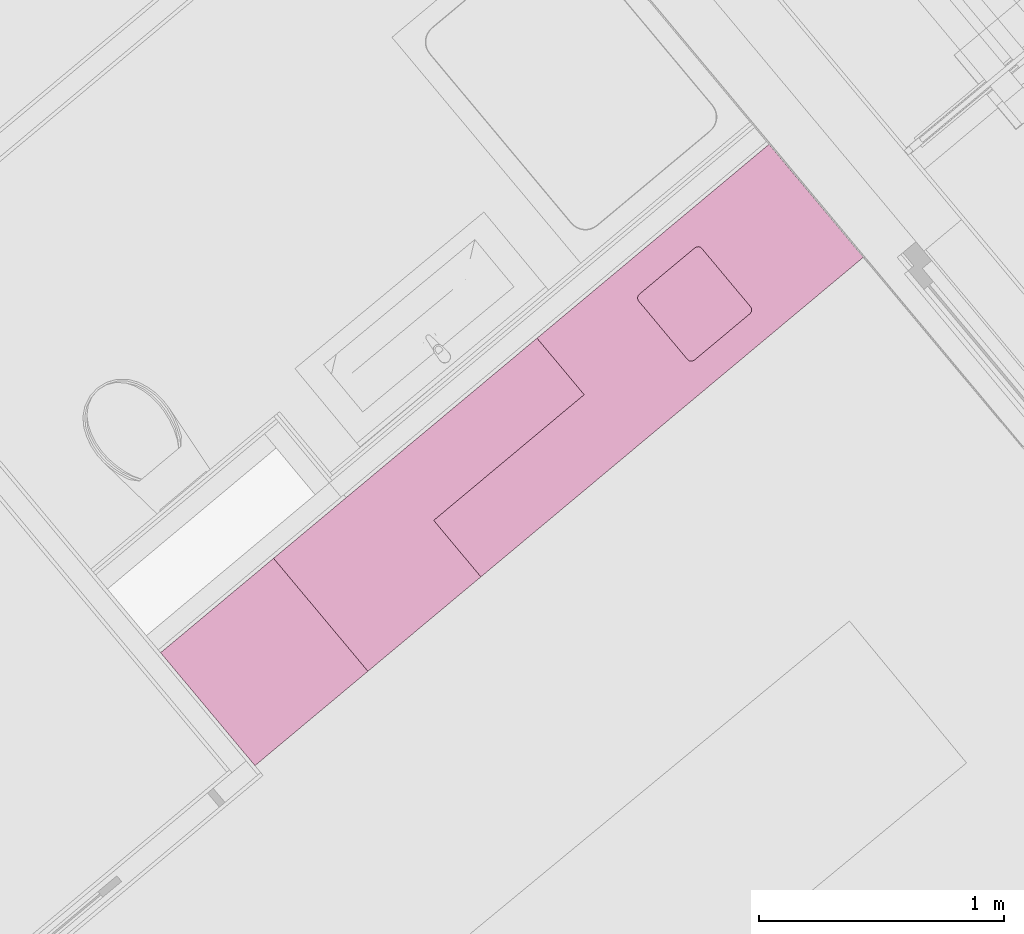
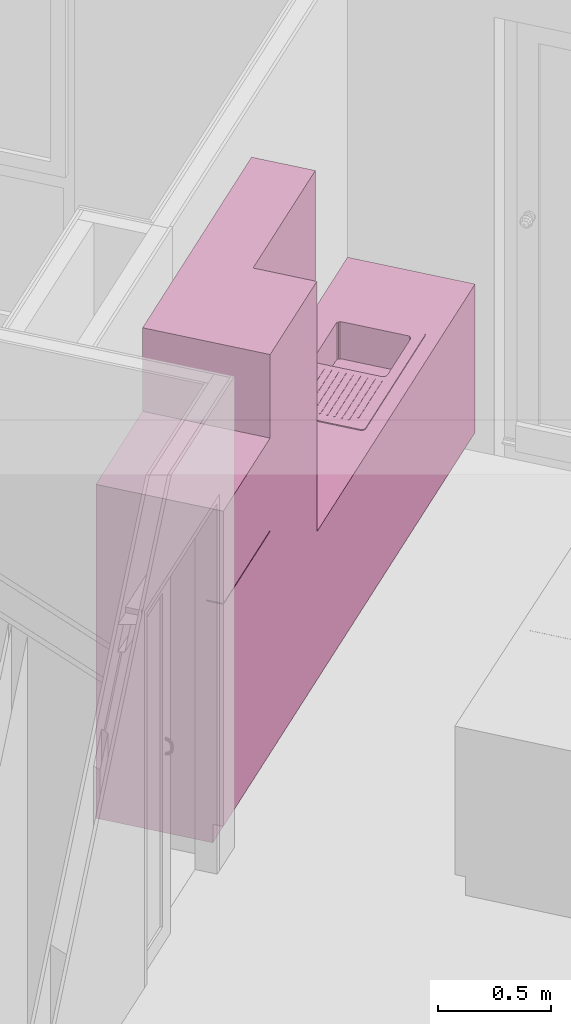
# One storey, part 61 of 61: 1 furniture element.
"""IFC4 building model written with IfcOpenShell, lengths in metres."""

from ifc_helpers import new_model, entity, si_unit, converted_unit, derived_unit, direction, frame, origin_with_axes, place, context, subcontext, project, spatial, polygons, source, transform, mapped, type_object, element, save


model = new_model("IFC4")

# Units and contexts
model_context = context("Model", 3, precision=1e-05, world=origin_with_axes(), true_north=direction((0.0, 1.0)))
body_context = subcontext(model_context, "Body", "Model", "MODEL_VIEW")
ifc_project = project(units=[si_unit("LENGTHUNIT", "METRE"), si_unit("AREAUNIT", "SQUARE_METRE"), si_unit("VOLUMEUNIT", "CUBIC_METRE"), converted_unit("PLANEANGLEUNIT", "DEGREE", entity("IfcPlaneAngleMeasure", 0.0174532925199), si_unit("PLANEANGLEUNIT", "RADIAN"), dimensions=[0, 0, 0, 0, 0, 0, 0]), converted_unit("TIMEUNIT", "Year", entity("IfcTimeMeasure", 31556926.0), si_unit("TIMEUNIT", "SECOND"), dimensions=[0, 0, 1, 0, 0, 0, 0]), si_unit("MASSUNIT", "GRAM", prefix="KILO"), si_unit("THERMODYNAMICTEMPERATUREUNIT", "DEGREE_CELSIUS"), si_unit("LUMINOUSINTENSITYUNIT", "LUMEN"), si_unit("ENERGYUNIT", "JOULE", prefix="MEGA"), derived_unit("THERMALCONDUCTANCEUNIT", [(si_unit("POWERUNIT", "WATT"), 1), (si_unit("LENGTHUNIT", "METRE"), -1), (si_unit("THERMODYNAMICTEMPERATUREUNIT", "KELVIN"), -1)]), derived_unit("SPECIFICHEATCAPACITYUNIT", [(si_unit("ENERGYUNIT", "JOULE"), 1), (si_unit("MASSUNIT", "GRAM", prefix="KILO"), -1), (si_unit("THERMODYNAMICTEMPERATUREUNIT", "KELVIN"), -1)]), derived_unit("MASSDENSITYUNIT", [(si_unit("MASSUNIT", "GRAM", prefix="KILO"), 1), (si_unit("VOLUMEUNIT", "CUBIC_METRE"), -1)])], contexts=[model_context])

# Site, building, storey, space
site_placement = place(None, frame((-0.00153261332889, -0.00661245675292, 0.0), z_axis=(0.0, 0.0, 1.0), x_axis=(1.0, 0.0, 0.0)))
site = spatial("IfcSite", under=ifc_project, at=site_placement, Name="Gelände", CompositionType="ELEMENT")
building_placement = place(site_placement, origin_with_axes())
building = spatial("IfcBuilding", under=site, at=building_placement, Name="Gebäude", CompositionType="ELEMENT")
storey_placement = place(building_placement, frame((0.0, 0.0, 5.7), z_axis=(0.0, 0.0, 1.0), x_axis=(1.0, 0.0, 0.0)))
storey = spatial("IfcBuildingStorey", under=building, at=storey_placement, Name="DG1", CompositionType="ELEMENT", Elevation=5.7)
space_placement = place(storey_placement, frame((12.8063322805, 20.3315828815, 0.22), z_axis=(0.0, 0.0, 1.0), x_axis=(-0.641209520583, 0.767365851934, 0.0)))
space = spatial("IfcSpace", under=storey, at=space_placement, CompositionType="ELEMENT", PredefinedType="NOTDEFINED")

# Furniture
furniture_type = type_object("IfcFurnitureType", Name="Konzeptküche 26", AssemblyPlace="NOTDEFINED", PredefinedType="NOTDEFINED")
shared_shape = source(origin_with_axes(), body_context, "Body", "Tessellation", [
    polygons([(-0.968323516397, 0.0, 0.0), (-0.968323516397, 0.0, 0.1), (-3.0, 0.0, 0.1), (-3.0, 0.0, 0.0), (-0.968323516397, 0.55, 0.0), (-0.968323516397, 0.55, 0.1), (-3.0, 0.55, 0.1), (-3.0, 0.55, 0.0)], [[[1, 2, 3, 4]], [[5, 6, 2, 1]], [[2, 6, 7, 3]], [[4, 3, 7, 8]], [[1, 4, 8, 5]], [[8, 7, 6, 5]]], closed=True),
    polygons([(-0.968323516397, 0.6, 0.85), (-0.968323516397, 0.0, 0.85), (-3.0, 0.0, 0.85), (-3.0, 0.6, 0.85), (-1.79253770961, 0.055, 0.85), (-1.79253770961, 0.505, 0.85), (-2.54253770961, 0.505, 0.85), (-2.54253770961, 0.055, 0.85), (-0.968323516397, 0.6, 0.9), (-0.968323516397, 0.0, 0.9), (-3.0, 0.0, 0.9), (-3.0, 0.6, 0.9), (-1.79253770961, 0.505, 0.9), (-1.79253770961, 0.055, 0.9), (-2.54253770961, 0.505, 0.9), (-2.54253770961, 0.055, 0.9)], [[[1, 2, 3, 4], [5, 6, 7, 8]], [[2, 1, 9, 10]], [[3, 2, 10, 11]], [[4, 3, 11, 12]], [[1, 4, 12, 9]], [[13, 6, 5, 14]], [[15, 7, 6, 13]], [[16, 8, 7, 15]], [[14, 5, 8, 16]], [[11, 10, 9, 12], [14, 16, 15, 13]]], closed=True),
    polygons([(-0.968323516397, 0.6, 0.1), (-0.968323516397, 0.0, 0.1), (-3.0, 0.0, 0.1), (-3.0, 0.6, 0.1), (-1.79253770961, 0.055, 0.1), (-1.79253770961, 0.505, 0.1), (-2.54253770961, 0.505, 0.1), (-2.54253770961, 0.055, 0.1), (-0.968323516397, 0.6, 0.85), (-0.968323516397, 0.0, 0.85), (-3.0, 0.0, 0.85), (-3.0, 0.6, 0.85), (-1.79253770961, 0.505, 0.85), (-1.79253770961, 0.055, 0.85), (-2.54253770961, 0.505, 0.85), (-2.54253770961, 0.055, 0.85)], [[[1, 2, 3, 4], [5, 6, 7, 8]], [[2, 1, 9, 10]], [[3, 2, 10, 11]], [[4, 3, 11, 12]], [[1, 4, 12, 9]], [[13, 6, 5, 14]], [[15, 7, 6, 13]], [[16, 8, 7, 15]], [[14, 5, 8, 16]], [[11, 10, 9, 12], [14, 16, 15, 13]]], closed=True),
    polygons([(-0.968323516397, 0.0, 1.5), (-0.968323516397, 0.0, 2.25), (-1.76753770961, 0.0, 2.25), (-1.76753770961, 0.0, 1.5), (-0.968323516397, 0.3, 1.5), (-0.968323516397, 0.3, 2.25), (-1.76753770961, 0.3, 2.25), (-1.76753770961, 0.3, 1.5)], [[[1, 2, 3, 4]], [[5, 6, 2, 1]], [[2, 6, 7, 3]], [[4, 3, 7, 8]], [[1, 4, 8, 5]], [[8, 7, 6, 5]]], closed=True),
    polygons([(-0.368323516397, 0.52, 0.0), (-0.368323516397, 0.52, 0.1), (-0.368323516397, 0.55, 0.1), (-0.368323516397, 0.55, 0.0), (0.231676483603, 0.52, 0.0), (0.231676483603, 0.52, 0.1), (0.231676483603, 0.55, 0.1), (0.231676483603, 0.55, 0.0)], [[[1, 2, 3, 4]], [[5, 6, 2, 1]], [[2, 6, 7, 3]], [[4, 3, 7, 8]], [[1, 4, 8, 5]], [[8, 7, 6, 5]]], closed=True),
    polygons([(-0.368323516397, 0.52, 0.0), (-0.368323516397, 0.52, 1.8), (0.231676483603, 0.52, 1.8), (0.231676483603, 0.52, 0.0), (-0.368323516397, 0.0, 0.0), (-0.368323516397, 0.0, 1.8), (0.231676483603, 0.0, 1.8), (0.231676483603, 0.0, 0.0)], [[[1, 2, 3, 4]], [[5, 6, 2, 1]], [[2, 6, 7, 3]], [[4, 3, 7, 8]], [[1, 4, 8, 5]], [[8, 7, 6, 5]]], closed=True),
    polygons([(-0.368323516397, 0.5199, 0.1), (-0.368323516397, 0.5199, 1.2975), (-0.368323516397, 0.6, 1.2975), (-0.368323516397, 0.6, 0.1), (0.231676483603, 0.5199, 0.1), (0.231676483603, 0.5199, 1.2975), (0.231676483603, 0.6, 1.2975), (0.231676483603, 0.6, 0.1)], [[[1, 2, 3, 4]], [[5, 6, 2, 1]], [[2, 6, 7, 3]], [[4, 3, 7, 8]], [[1, 4, 8, 5]], [[8, 7, 6, 5]]], closed=True),
    polygons([(-0.368323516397, 0.5199, 1.3025), (-0.368323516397, 0.5199, 1.8), (-0.368323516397, 0.6, 1.8), (-0.368323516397, 0.6, 1.3025), (0.231676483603, 0.5199, 1.3025), (0.231676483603, 0.5199, 1.8), (0.231676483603, 0.6, 1.8), (0.231676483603, 0.6, 1.3025)], [[[1, 2, 3, 4]], [[5, 6, 2, 1]], [[2, 6, 7, 3]], [[4, 3, 7, 8]], [[1, 4, 8, 5]], [[8, 7, 6, 5]]], closed=True),
    polygons([(-2.49753770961, 0.48, 0.705), (-2.49753770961, 0.48, 0.9), (-2.20253770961, 0.48, 0.9), (-2.20253770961, 0.48, 0.705), (-2.50519137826, 0.47847759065, 0.705), (-2.50519137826, 0.47847759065, 0.9), (-2.19488404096, 0.47847759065, 0.9), (-2.19488404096, 0.47847759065, 0.705), (-2.18839557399, 0.474142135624, 0.705), (-2.18406011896, 0.467653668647, 0.705), (-2.18253770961, 0.46, 0.705), (-2.18253770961, 0.15, 0.705), (-2.18406011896, 0.142346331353, 0.705), (-2.18839557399, 0.135857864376, 0.705), (-2.19488404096, 0.13152240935, 0.705), (-2.20253770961, 0.13, 0.705), (-2.49753770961, 0.13, 0.705), (-2.50519137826, 0.13152240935, 0.705), (-2.51167984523, 0.135857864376, 0.705), (-2.51601530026, 0.142346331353, 0.705), (-2.51753770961, 0.15, 0.705), (-2.51753770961, 0.46, 0.705), (-2.51601530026, 0.467653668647, 0.705), (-2.51167984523, 0.474142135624, 0.705), (-2.51167984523, 0.474142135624, 0.9), (-2.18839557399, 0.474142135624, 0.9), (-2.18406011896, 0.467653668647, 0.9), (-2.18253770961, 0.46, 0.9), (-2.18253770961, 0.15, 0.9), (-2.18406011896, 0.142346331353, 0.9), (-2.18839557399, 0.135857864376, 0.9), (-2.19488404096, 0.13152240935, 0.9), (-2.20253770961, 0.13, 0.9), (-2.49753770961, 0.13, 0.9), (-2.50519137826, 0.13152240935, 0.9), (-2.51167984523, 0.135857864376, 0.9), (-2.51601530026, 0.142346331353, 0.9), (-2.51753770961, 0.15, 0.9), (-2.51753770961, 0.46, 0.9), (-2.51601530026, 0.467653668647, 0.9)], [[[1, 2, 3, 4]], [[5, 6, 2, 1]], [[4, 3, 7, 8]], [[1, 4, 8, 9, 10, 11, 12, 13, 14, 15, 16, 17, 18, 19, 20, 21, 22, 23, 24, 5]], [[24, 25, 6, 5]], [[8, 7, 26, 9]], [[9, 26, 27, 10]], [[10, 27, 28, 11]], [[11, 28, 29, 12]], [[12, 29, 30, 13]], [[13, 30, 31, 14]], [[14, 31, 32, 15]], [[15, 32, 33, 16]], [[16, 33, 34, 17]], [[17, 34, 35, 18]], [[18, 35, 36, 19]], [[19, 36, 37, 20]], [[20, 37, 38, 21]], [[21, 38, 39, 22]], [[22, 39, 40, 23]], [[23, 40, 25, 24]]], closed=False),
    polygons([(-2.54753770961, 0.53, 0.9), (-2.54753770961, 0.53, 0.905), (-1.78753770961, 0.53, 0.905), (-1.78753770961, 0.53, 0.9), (-2.55519137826, 0.52847759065, 0.9), (-2.55519137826, 0.52847759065, 0.905), (-2.56167984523, 0.524142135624, 0.905), (-2.56601530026, 0.517653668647, 0.905), (-2.56753770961, 0.51, 0.905), (-2.56753770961, 0.05, 0.905), (-2.56601530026, 0.0423463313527, 0.905), (-2.56167984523, 0.0358578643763, 0.905), (-2.55519137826, 0.0315224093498, 0.905), (-2.54753770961, 0.03, 0.905), (-1.78753770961, 0.03, 0.905), (-1.77988404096, 0.0315224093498, 0.905), (-1.77339557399, 0.0358578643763, 0.905), (-1.76906011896, 0.0423463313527, 0.905), (-1.76753770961, 0.05, 0.905), (-1.76753770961, 0.51, 0.905), (-1.76906011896, 0.517653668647, 0.905), (-1.77339557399, 0.524142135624, 0.905), (-1.77988404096, 0.52847759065, 0.905), (-2.49753770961, 0.48, 0.905), (-2.20253770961, 0.48, 0.905), (-2.19488404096, 0.47847759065, 0.905), (-2.18839557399, 0.474142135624, 0.905), (-2.18406011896, 0.467653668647, 0.905), (-2.18253770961, 0.46, 0.905), (-2.18253770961, 0.15, 0.905), (-2.18406011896, 0.142346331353, 0.905), (-2.18839557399, 0.135857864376, 0.905), (-2.19488404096, 0.13152240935, 0.905), (-2.20253770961, 0.13, 0.905), (-2.49753770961, 0.13, 0.905), (-2.50519137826, 0.13152240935, 0.905), (-2.51167984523, 0.135857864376, 0.905), (-2.51601530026, 0.142346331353, 0.905), (-2.51753770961, 0.15, 0.905), (-2.51753770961, 0.46, 0.905), (-2.51601530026, 0.467653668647, 0.905), (-2.51167984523, 0.474142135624, 0.905), (-2.50519137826, 0.47847759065, 0.905), (-1.77988404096, 0.52847759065, 0.9), (-1.77339557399, 0.524142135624, 0.9), (-1.76906011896, 0.517653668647, 0.9), (-1.76753770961, 0.51, 0.9), (-1.76753770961, 0.05, 0.9), (-1.76906011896, 0.0423463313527, 0.9), (-1.77339557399, 0.0358578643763, 0.9), (-1.77988404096, 0.0315224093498, 0.9), (-1.78753770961, 0.03, 0.9), (-2.54753770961, 0.03, 0.9), (-2.55519137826, 0.0315224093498, 0.9), (-2.56167984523, 0.0358578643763, 0.9), (-2.56601530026, 0.0423463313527, 0.9), (-2.56753770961, 0.05, 0.9), (-2.56753770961, 0.51, 0.9), (-2.56601530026, 0.517653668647, 0.9), (-2.56167984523, 0.524142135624, 0.9), (-2.49753770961, 0.48, 0.9), (-2.50519137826, 0.47847759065, 0.9), (-2.51167984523, 0.474142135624, 0.9), (-2.51601530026, 0.467653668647, 0.9), (-2.51753770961, 0.46, 0.9), (-2.51753770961, 0.15, 0.9), (-2.51601530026, 0.142346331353, 0.9), (-2.51167984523, 0.135857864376, 0.9), (-2.50519137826, 0.13152240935, 0.9), (-2.49753770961, 0.13, 0.9), (-2.20253770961, 0.13, 0.9), (-2.19488404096, 0.13152240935, 0.9), (-2.18839557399, 0.135857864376, 0.9), (-2.18406011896, 0.142346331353, 0.9), (-2.18253770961, 0.15, 0.9), (-2.18253770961, 0.46, 0.9), (-2.18406011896, 0.467653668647, 0.9), (-2.18839557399, 0.474142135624, 0.9), (-2.19488404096, 0.47847759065, 0.9), (-2.20253770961, 0.48, 0.9)], [[[1, 2, 3, 4]], [[5, 6, 2, 1]], [[2, 6, 7, 8, 9, 10, 11, 12, 13, 14, 15, 16, 17, 18, 19, 20, 21, 22, 23, 3], [24, 25, 26, 27, 28, 29, 30, 31, 32, 33, 34, 35, 36, 37, 38, 39, 40, 41, 42, 43]], [[4, 3, 23, 44]], [[1, 4, 44, 45, 46, 47, 48, 49, 50, 51, 52, 53, 54, 55, 56, 57, 58, 59, 60, 5], [61, 62, 63, 64, 65, 66, 67, 68, 69, 70, 71, 72, 73, 74, 75, 76, 77, 78, 79, 80]], [[60, 7, 6, 5]], [[59, 8, 7, 60]], [[58, 9, 8, 59]], [[57, 10, 9, 58]], [[56, 11, 10, 57]], [[55, 12, 11, 56]], [[54, 13, 12, 55]], [[53, 14, 13, 54]], [[52, 15, 14, 53]], [[51, 16, 15, 52]], [[50, 17, 16, 51]], [[49, 18, 17, 50]], [[48, 19, 18, 49]], [[47, 20, 19, 48]], [[46, 21, 20, 47]], [[45, 22, 21, 46]], [[44, 23, 22, 45]], [[80, 25, 24, 61]], [[79, 26, 25, 80]], [[78, 27, 26, 79]], [[77, 28, 27, 78]], [[76, 29, 28, 77]], [[75, 30, 29, 76]], [[74, 31, 30, 75]], [[73, 32, 31, 74]], [[72, 33, 32, 73]], [[71, 34, 33, 72]], [[70, 35, 34, 71]], [[69, 36, 35, 70]], [[68, 37, 36, 69]], [[67, 38, 37, 68]], [[66, 39, 38, 67]], [[65, 40, 39, 66]], [[64, 41, 40, 65]], [[63, 42, 41, 64]], [[62, 43, 42, 63]], [[61, 24, 43, 62]]], closed=True),
    polygons([(-2.15253770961, 0.475, 0.905), (-2.15253770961, 0.475, 0.907), (-1.84753770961, 0.475, 0.907), (-1.84753770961, 0.475, 0.905), (-2.15253770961, 0.47, 0.905), (-2.15253770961, 0.47, 0.907), (-1.84753770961, 0.47, 0.907), (-1.84753770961, 0.47, 0.905)], [[[1, 2, 3, 4]], [[5, 6, 2, 1]], [[2, 6, 7, 3]], [[4, 3, 7, 8]], [[1, 4, 8, 5]], [[8, 7, 6, 5]]], closed=True),
    polygons([(-2.15253770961, 0.441, 0.905), (-2.15253770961, 0.441, 0.907), (-1.81753770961, 0.441, 0.907), (-1.81753770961, 0.441, 0.905), (-2.15253770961, 0.436, 0.905), (-2.15253770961, 0.436, 0.907), (-1.81753770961, 0.436, 0.907), (-1.81753770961, 0.436, 0.905)], [[[1, 2, 3, 4]], [[5, 6, 2, 1]], [[2, 6, 7, 3]], [[4, 3, 7, 8]], [[1, 4, 8, 5]], [[8, 7, 6, 5]]], closed=True),
    polygons([(-2.15253770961, 0.407, 0.905), (-2.15253770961, 0.407, 0.907), (-1.81753770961, 0.407, 0.907), (-1.81753770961, 0.407, 0.905), (-2.15253770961, 0.402, 0.905), (-2.15253770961, 0.402, 0.907), (-1.81753770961, 0.402, 0.907), (-1.81753770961, 0.402, 0.905)], [[[1, 2, 3, 4]], [[5, 6, 2, 1]], [[2, 6, 7, 3]], [[4, 3, 7, 8]], [[1, 4, 8, 5]], [[8, 7, 6, 5]]], closed=True),
    polygons([(-2.15253770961, 0.373, 0.905), (-2.15253770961, 0.373, 0.907), (-1.81753770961, 0.373, 0.907), (-1.81753770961, 0.373, 0.905), (-2.15253770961, 0.368, 0.905), (-2.15253770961, 0.368, 0.907), (-1.81753770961, 0.368, 0.907), (-1.81753770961, 0.368, 0.905)], [[[1, 2, 3, 4]], [[5, 6, 2, 1]], [[2, 6, 7, 3]], [[4, 3, 7, 8]], [[1, 4, 8, 5]], [[8, 7, 6, 5]]], closed=True),
    polygons([(-2.15253770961, 0.339, 0.905), (-2.15253770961, 0.339, 0.907), (-1.81753770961, 0.339, 0.907), (-1.81753770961, 0.339, 0.905), (-2.15253770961, 0.334, 0.905), (-2.15253770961, 0.334, 0.907), (-1.81753770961, 0.334, 0.907), (-1.81753770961, 0.334, 0.905)], [[[1, 2, 3, 4]], [[5, 6, 2, 1]], [[2, 6, 7, 3]], [[4, 3, 7, 8]], [[1, 4, 8, 5]], [[8, 7, 6, 5]]], closed=True),
    polygons([(-2.15253770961, 0.305, 0.905), (-2.15253770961, 0.305, 0.907), (-1.81753770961, 0.305, 0.907), (-1.81753770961, 0.305, 0.905), (-2.15253770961, 0.3, 0.905), (-2.15253770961, 0.3, 0.907), (-1.81753770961, 0.3, 0.907), (-1.81753770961, 0.3, 0.905)], [[[1, 2, 3, 4]], [[5, 6, 2, 1]], [[2, 6, 7, 3]], [[4, 3, 7, 8]], [[1, 4, 8, 5]], [[8, 7, 6, 5]]], closed=True),
    polygons([(-2.15253770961, 0.271, 0.905), (-2.15253770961, 0.271, 0.907), (-1.81753770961, 0.271, 0.907), (-1.81753770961, 0.271, 0.905), (-2.15253770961, 0.266, 0.905), (-2.15253770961, 0.266, 0.907), (-1.81753770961, 0.266, 0.907), (-1.81753770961, 0.266, 0.905)], [[[1, 2, 3, 4]], [[5, 6, 2, 1]], [[2, 6, 7, 3]], [[4, 3, 7, 8]], [[1, 4, 8, 5]], [[8, 7, 6, 5]]], closed=True),
    polygons([(-2.15253770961, 0.237, 0.905), (-2.15253770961, 0.237, 0.907), (-1.81753770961, 0.237, 0.907), (-1.81753770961, 0.237, 0.905), (-2.15253770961, 0.232, 0.905), (-2.15253770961, 0.232, 0.907), (-1.81753770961, 0.232, 0.907), (-1.81753770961, 0.232, 0.905)], [[[1, 2, 3, 4]], [[5, 6, 2, 1]], [[2, 6, 7, 3]], [[4, 3, 7, 8]], [[1, 4, 8, 5]], [[8, 7, 6, 5]]], closed=True),
    polygons([(-2.15253770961, 0.203, 0.905), (-2.15253770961, 0.203, 0.907), (-1.81753770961, 0.203, 0.907), (-1.81753770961, 0.203, 0.905), (-2.15253770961, 0.198, 0.905), (-2.15253770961, 0.198, 0.907), (-1.81753770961, 0.198, 0.907), (-1.81753770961, 0.198, 0.905)], [[[1, 2, 3, 4]], [[5, 6, 2, 1]], [[2, 6, 7, 3]], [[4, 3, 7, 8]], [[1, 4, 8, 5]], [[8, 7, 6, 5]]], closed=True),
    polygons([(-2.15253770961, 0.169, 0.905), (-2.15253770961, 0.169, 0.907), (-1.81753770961, 0.169, 0.907), (-1.81753770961, 0.169, 0.905), (-2.15253770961, 0.164, 0.905), (-2.15253770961, 0.164, 0.907), (-1.81753770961, 0.164, 0.907), (-1.81753770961, 0.164, 0.905)], [[[1, 2, 3, 4]], [[5, 6, 2, 1]], [[2, 6, 7, 3]], [[4, 3, 7, 8]], [[1, 4, 8, 5]], [[8, 7, 6, 5]]], closed=True),
    polygons([(-2.15253770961, 0.135, 0.905), (-2.15253770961, 0.135, 0.907), (-1.84753770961, 0.135, 0.907), (-1.84753770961, 0.135, 0.905), (-2.15253770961, 0.13, 0.905), (-2.15253770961, 0.13, 0.907), (-1.84753770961, 0.13, 0.907), (-1.84753770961, 0.13, 0.905)], [[[1, 2, 3, 4]], [[5, 6, 2, 1]], [[2, 6, 7, 3]], [[4, 3, 7, 8]], [[1, 4, 8, 5]], [[8, 7, 6, 5]]], closed=True),
    polygons([(-0.968323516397, 0.55, 0.0), (-0.968323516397, 0.55, 0.1), (-0.368323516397, 0.55, 0.1), (-0.368323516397, 0.55, 0.0), (-0.968323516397, 0.0, 0.0), (-0.968323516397, 0.0, 0.1), (-0.368323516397, 0.0, 0.1), (-0.368323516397, 0.0, 0.0)], [[[1, 2, 3, 4]], [[5, 6, 2, 1]], [[2, 6, 7, 3]], [[4, 3, 7, 8]], [[1, 4, 8, 5]], [[8, 7, 6, 5]]], closed=True),
    polygons([(-0.968323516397, 0.6, 0.1), (-0.968323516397, 0.6, 2.25), (-0.368323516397, 0.6, 2.25), (-0.368323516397, 0.6, 0.1), (-0.968323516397, 0.0, 0.1), (-0.968323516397, 0.0, 2.25), (-0.368323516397, 0.0, 2.25), (-0.368323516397, 0.0, 0.1)], [[[1, 2, 3, 4]], [[5, 6, 2, 1]], [[2, 6, 7, 3]], [[4, 3, 7, 8]], [[1, 4, 8, 5]], [[8, 7, 6, 5]]], closed=True),
])
furniture_placement = place(space_placement, frame((6.10980259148, 2.99999999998, 0.0), z_axis=(0.0, 0.0, 1.0), x_axis=(0.0, 1.0, 0.0)))
element("IfcFurniture", 1, at=furniture_placement, inside=space, type_object=furniture_type, Name="Objekt-0002", PredefinedType="NOTDEFINED", context=body_context, shape_type="MappedRepresentation", body=[
    mapped(shared_shape, transform((0.0, 0.0, 0.0))),
])

save(model, "model.ifc")
